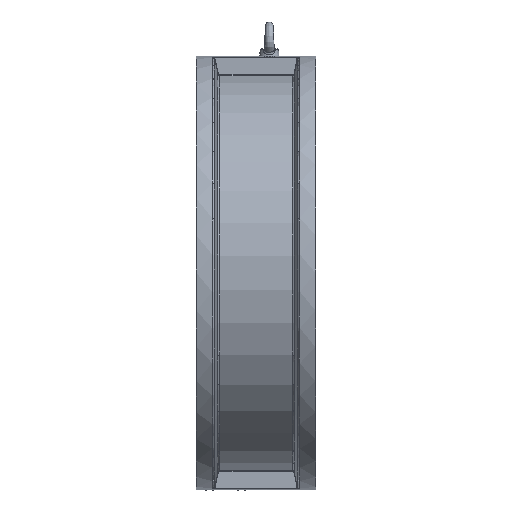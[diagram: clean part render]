
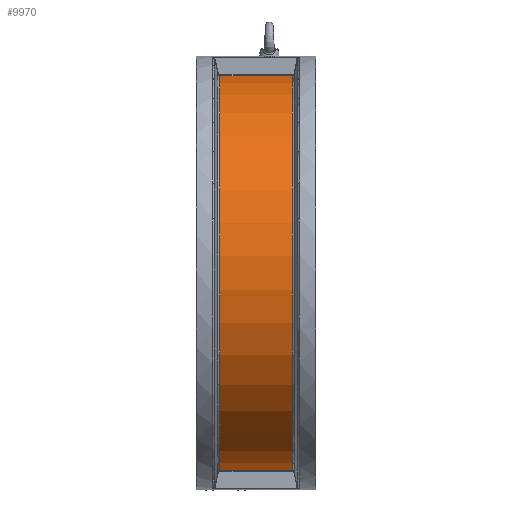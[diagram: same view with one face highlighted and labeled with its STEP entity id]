
A CAD part, left-side view. The second image highlights one B-rep face of the part: STEP entity #9970.
In plain terms, the highlighted cylindrical face has radius 254 mm (diameter 508 mm), a partial arc.
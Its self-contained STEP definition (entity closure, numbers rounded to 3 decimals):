
#154 = CARTESIAN_POINT ( 'NONE',  ( 3332.927, 1515.943, 251.992 ) ) ;
#343 = CARTESIAN_POINT ( 'NONE',  ( 3364.801, 1472.835, 0. ) ) ;
#425 = EDGE_CURVE ( 'NONE', #9011, #4873, #6479, .T. ) ;
#473 = VECTOR ( 'NONE', #9504, 1000. ) ;
#546 = CIRCLE ( 'NONE', #7118, 254. ) ;
#1063 = DIRECTION ( 'NONE',  ( 0., 1., 0. ) ) ;
#1777 = CARTESIAN_POINT ( 'NONE',  ( 3364.801, 1515.943, 0. ) ) ;
#1875 = ORIENTED_EDGE ( 'NONE', *, *, #5440, .T. ) ;
#2103 = CARTESIAN_POINT ( 'NONE',  ( 3332.927, 1515.943, -251.992 ) ) ;
#2316 = ORIENTED_EDGE ( 'NONE', *, *, #425, .F. ) ;
#2558 = ORIENTED_EDGE ( 'NONE', *, *, #5556, .T. ) ;
#2690 = LINE ( 'NONE', #154, #473 ) ;
#2885 = CARTESIAN_POINT ( 'NONE',  ( 3332.927, 1380.123, -251.992 ) ) ;
#2917 = FACE_OUTER_BOUND ( 'NONE', #8087, .T. ) ;
#3325 = CYLINDRICAL_SURFACE ( 'NONE', #10417, 254. ) ;
#4130 = LINE ( 'NONE', #2103, #8323 ) ;
#4873 = VERTEX_POINT ( 'NONE', #5360 ) ;
#5360 = CARTESIAN_POINT ( 'NONE',  ( 3332.927, 1472.835, 251.992 ) ) ;
#5440 = EDGE_CURVE ( 'NONE', #7166, #4873, #2690, .T. ) ;
#5556 = EDGE_CURVE ( 'NONE', #10305, #7166, #546, .T. ) ;
#5709 = EDGE_CURVE ( 'NONE', #9011, #10305, #4130, .T. ) ;
#6148 = DIRECTION ( 'NONE',  ( 0., 0., 1. ) ) ;
#6160 = DIRECTION ( 'NONE',  ( 0., 0., 1. ) ) ;
#6305 = DIRECTION ( 'NONE',  ( 0., -1., 0. ) ) ;
#6306 = CARTESIAN_POINT ( 'NONE',  ( 3332.927, 1380.123, 251.992 ) ) ;
#6307 = ORIENTED_EDGE ( 'NONE', *, *, #5709, .T. ) ;
#6479 = CIRCLE ( 'NONE', #7508, 254. ) ;
#6818 = DIRECTION ( 'NONE',  ( 0., 1., 0. ) ) ;
#7051 = DIRECTION ( 'NONE',  ( 0., 0., 1. ) ) ;
#7118 = AXIS2_PLACEMENT_3D ( 'NONE', #8672, #8705, #6160 ) ;
#7166 = VERTEX_POINT ( 'NONE', #6306 ) ;
#7189 = CARTESIAN_POINT ( 'NONE',  ( 3332.927, 1472.835, -251.992 ) ) ;
#7508 = AXIS2_PLACEMENT_3D ( 'NONE', #343, #1063, #6148 ) ;
#8087 = EDGE_LOOP ( 'NONE', ( #2316, #6307, #2558, #1875 ) ) ;
#8323 = VECTOR ( 'NONE', #6305, 1000. ) ;
#8672 = CARTESIAN_POINT ( 'NONE',  ( 3364.801, 1380.123, 0. ) ) ;
#8705 = DIRECTION ( 'NONE',  ( 0., 1., 0. ) ) ;
#9011 = VERTEX_POINT ( 'NONE', #7189 ) ;
#9504 = DIRECTION ( 'NONE',  ( 0., 1., 0. ) ) ;
#9970 = ADVANCED_FACE ( 'NONE', ( #2917 ), #3325, .T. ) ;
#10305 = VERTEX_POINT ( 'NONE', #2885 ) ;
#10417 = AXIS2_PLACEMENT_3D ( 'NONE', #1777, #6818, #7051 ) ;
